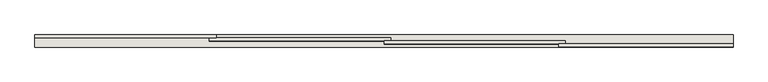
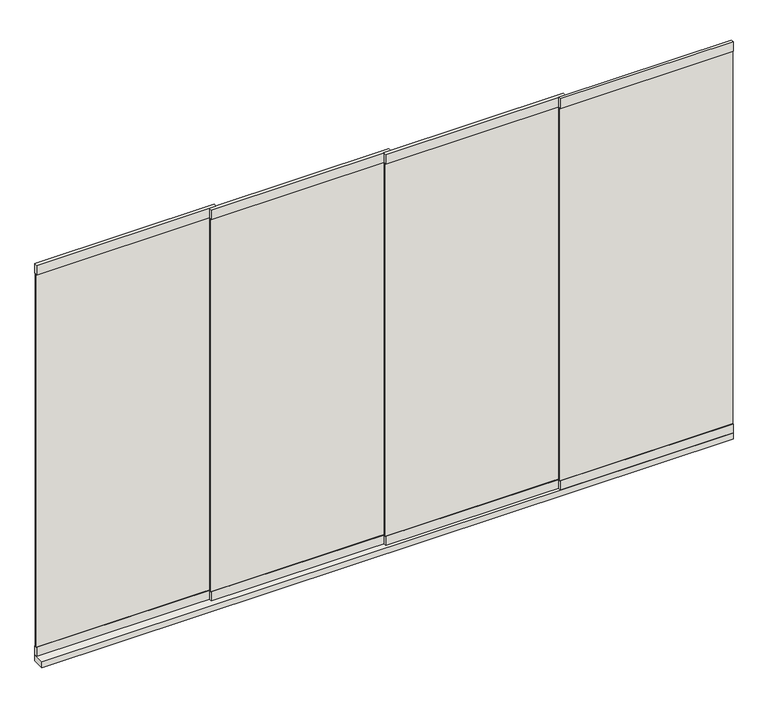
"""IFC4 building model written with IfcOpenShell, lengths in millimetres: wall geometry, Renson_Camargue_Glass_Sliding_Panel : Renson_Camargue_Glass_Sliding_Panel."""

from ifc_helpers import new_model, si_unit, frame, origin, origin_with_axes, place, context, project, spatial, polyline, outline, extrude, source, transform, mapped, element, save


def wall_fd068a63(model_context):
    return source(origin(), model_context, "Body", "SweptSolid", [
        extrude(outline(polyline([(750.0, 0.0), (-2950.0, 0.0), (-2950.0, 64.0), (750.0, 64.0), (750.0, 0.0)])), origin_with_axes(), (0.0, 0.0, 1.0), 35.0),
        extrude(outline(polyline([(750.0, 3.0), (-175.0, 3.0), (-175.0, 13.0), (750.0, 13.0), (750.0, 3.0)])), frame((0.0, 0.0, 86.0), z_axis=(0.0, 0.0, 1.0), x_axis=(1.0, 0.0, 0.0)), (0.0, 0.0, 1.0), 2110.0),
        extrude(outline(polyline([(-140.0, 19.0), (-1100.0, 19.0), (-1100.0, 29.0), (-140.0, 29.0), (-140.0, 19.0)])), frame((0.0, 0.0, 86.0), z_axis=(0.0, 0.0, 1.0), x_axis=(1.0, 0.0, 0.0)), (0.0, 0.0, 1.0), 2110.0),
        extrude(outline(polyline([(-1990.0, 51.0), (-2950.0, 51.0), (-2950.0, 61.0), (-1990.0, 61.0), (-1990.0, 51.0)])), frame((0.0, 0.0, 86.0), z_axis=(0.0, 0.0, 1.0), x_axis=(1.0, 0.0, 0.0)), (0.0, 0.0, 1.0), 2110.0),
        extrude(outline(polyline([(-1990.0, 48.0), (-2950.0, 48.0), (-2950.0, 64.0), (-1990.0, 64.0), (-1990.0, 48.0)])), frame((0.0, 0.0, 2196.0), z_axis=(0.0, 0.0, 1.0), x_axis=(1.0, 0.0, 0.0)), (0.0, 0.0, 1.0), 54.0),
        extrude(outline(polyline([(-1990.0, 48.0), (-2950.0, 48.0), (-2950.0, 64.0), (-1990.0, 64.0), (-1990.0, 48.0)])), frame((0.0, 0.0, 35.0), z_axis=(0.0, 0.0, 1.0), x_axis=(1.0, 0.0, 0.0)), (0.0, 0.0, 1.0), 51.0),
        extrude(outline(polyline([(-1065.0, 35.0), (-2025.0, 35.0), (-2025.0, 45.0), (-1065.0, 45.0), (-1065.0, 35.0)])), frame((0.0, 0.0, 86.0), z_axis=(0.0, 0.0, 1.0), x_axis=(1.0, 0.0, 0.0)), (0.0, 0.0, 1.0), 2110.0),
        extrude(outline(polyline([(750.0, 0.0), (-175.0, 0.0), (-175.0, 16.0), (750.0, 16.0), (750.0, 0.0)])), frame((0.0, 0.0, 2196.0), z_axis=(0.0, 0.0, 1.0), x_axis=(1.0, 0.0, 0.0)), (0.0, 0.0, 1.0), 54.0),
        extrude(outline(polyline([(-140.0, 16.0), (-1100.0, 16.0), (-1100.0, 32.0), (-140.0, 32.0), (-140.0, 16.0)])), frame((0.0, 0.0, 2196.0), z_axis=(0.0, 0.0, 1.0), x_axis=(1.0, 0.0, 0.0)), (0.0, 0.0, 1.0), 54.0),
        extrude(outline(polyline([(-1065.0, 32.0), (-2025.0, 32.0), (-2025.0, 48.0), (-1065.0, 48.0), (-1065.0, 32.0)])), frame((0.0, 0.0, 2196.0), z_axis=(0.0, 0.0, 1.0), x_axis=(1.0, 0.0, 0.0)), (0.0, 0.0, 1.0), 54.0),
        extrude(outline(polyline([(750.0, 0.0), (-175.0, 0.0), (-175.0, 16.0), (750.0, 16.0), (750.0, 0.0)])), frame((0.0, 0.0, 35.0), z_axis=(0.0, 0.0, 1.0), x_axis=(1.0, 0.0, 0.0)), (0.0, 0.0, 1.0), 51.0),
        extrude(outline(polyline([(-140.0, 16.0), (-1100.0, 16.0), (-1100.0, 32.0), (-140.0, 32.0), (-140.0, 16.0)])), frame((0.0, 0.0, 35.0), z_axis=(0.0, 0.0, 1.0), x_axis=(1.0, 0.0, 0.0)), (0.0, 0.0, 1.0), 51.0),
        extrude(outline(polyline([(-1065.0, 32.0), (-2025.0, 32.0), (-2025.0, 48.0), (-1065.0, 48.0), (-1065.0, 32.0)])), frame((0.0, 0.0, 35.0), z_axis=(0.0, 0.0, 1.0), x_axis=(1.0, 0.0, 0.0)), (0.0, 0.0, 1.0), 51.0),
    ])


if __name__ == "__main__":
    model = new_model("IFC4")
    model_context = context("Model", 3, world=origin())
    ifc_project = project(units=[si_unit("LENGTHUNIT", "METRE", prefix="MILLI")], contexts=[model_context])
    site = spatial("IfcSite", under=ifc_project)
    building = spatial("IfcBuilding", under=site)
    placement = place(None, origin())
    wall_shape = wall_fd068a63(model_context)
    element("IfcWall", 1, ObjectType="Renson_Camargue_Glass_Sliding_Panel : Renson_Camargue_Glass_Sliding_Panel", at=placement, inside=building, context=model_context, shape_type="MappedRepresentation", body=[
        mapped(wall_shape, transform((0.0, 0.0, 0.0), x_axis=(1.0, 0.0, 0.0), y_axis=(0.0, 1.0, 0.0), z_axis=(0.0, 0.0, 1.0))),
    ])
    save(model, "model.ifc")
